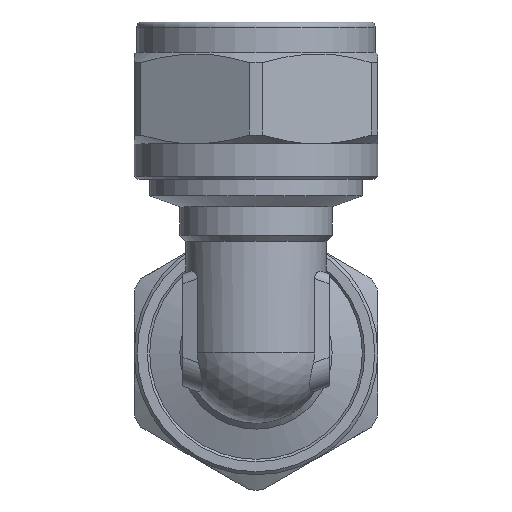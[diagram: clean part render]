
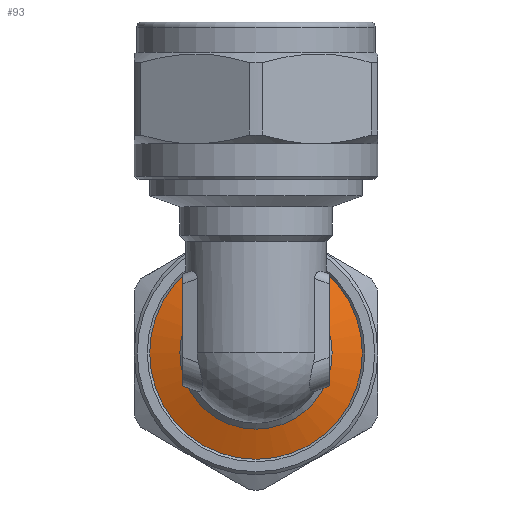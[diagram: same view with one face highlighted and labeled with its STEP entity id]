
A CAD part, front view. The second image highlights one B-rep face of the part: STEP entity #93.
In plain terms, the highlighted conical face has half-angle 70 degrees and reference radius 8.989 mm.
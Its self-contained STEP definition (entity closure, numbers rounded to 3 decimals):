
#93=ADVANCED_FACE('',(#956,#958),#960,.T.);
#956=FACE_OUTER_BOUND('',#957,.T.);
#957=EDGE_LOOP('',(#5771));
#958=FACE_OUTER_BOUND('',#959,.T.);
#959=EDGE_LOOP('',(#5772));
#960=CONICAL_SURFACE('',#961,8.989,1.222);
#961=AXIS2_PLACEMENT_3D('',#962,#963,#964);
#962=CARTESIAN_POINT('',(0.,14.958,0.));
#963=DIRECTION('',(0.,1.,0.));
#964=DIRECTION('',(-1.,0.,0.));
#5771=ORIENTED_EDGE('',*,*,#10330,.T.);
#5772=ORIENTED_EDGE('',*,*,#10313,.T.);
#10313=EDGE_CURVE('',#12164,#12164,#12165,.F.);
#10330=EDGE_CURVE('',#12198,#12198,#12199,.T.);
#12164=VERTEX_POINT('',#15299);
#12165=CIRCLE('',#15300,10.478);
#12198=VERTEX_POINT('',#15384);
#12199=CIRCLE('',#15385,7.5);
#15299=CARTESIAN_POINT('',(-10.478,15.5,0.));
#15300=AXIS2_PLACEMENT_3D('',#15301,#15302,#15303);
#15301=CARTESIAN_POINT('',(0.,15.5,0.));
#15302=DIRECTION('',(0.,1.,0.));
#15303=DIRECTION('',(-1.,0.,0.));
#15384=CARTESIAN_POINT('',(-7.5,14.416,0.));
#15385=AXIS2_PLACEMENT_3D('',#15386,#15387,#15388);
#15386=CARTESIAN_POINT('',(0.,14.416,0.));
#15387=DIRECTION('',(0.,1.,0.));
#15388=DIRECTION('',(-1.,0.,0.));
